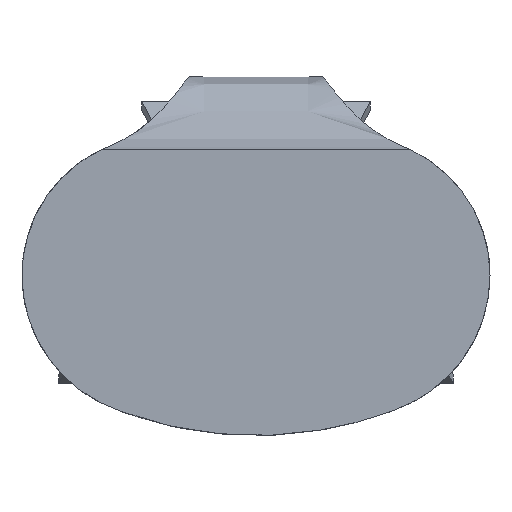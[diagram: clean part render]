
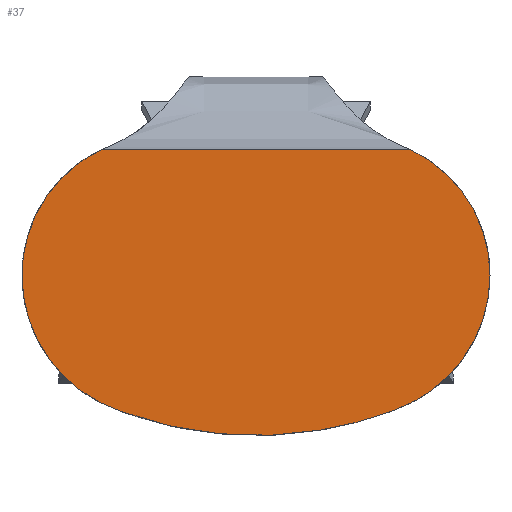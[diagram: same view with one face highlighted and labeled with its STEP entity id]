
A CAD part, top view. The second image highlights one B-rep face of the part: STEP entity #37.
In plain terms, the highlighted planar face has unit normal (0, 0, 1).
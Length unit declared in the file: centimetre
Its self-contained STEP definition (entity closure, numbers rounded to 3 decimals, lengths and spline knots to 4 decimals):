
#37=ADVANCED_FACE($,(#62),#337,.T.);
#62=FACE_OUTER_BOUND($,#87,.T.);
#87=EDGE_LOOP($,(#203,#204));
#203=ORIENTED_EDGE($,*,*,#272,.F.);
#204=ORIENTED_EDGE($,*,*,#266,.F.);
#266=EDGE_CURVE($,#311,#308,#395,.T.);
#272=EDGE_CURVE($,#308,#311,#339,.T.);
#308=VERTEX_POINT($,#1656);
#311=VERTEX_POINT($,#1659);
#337=PLANE($,#492);
#339=(
BOUNDED_CURVE()
B_SPLINE_CURVE(2,(#981,#982,#983,#984,#985,#986,#987,#988,#989,#990,#991),
.UNSPECIFIED.,.F.,.F.)
B_SPLINE_CURVE_WITH_KNOTS((3,2,2,2,2,3),(251.3464,268.9916,
288.0027,321.0229,340.034,357.6792),.UNSPECIFIED.)
CURVE()
GEOMETRIC_REPRESENTATION_ITEM()
RATIONAL_B_SPLINE_CURVE((1.,0.843,1.,0.829,1.,0.93,
1.,0.829,1.,0.843,1.))
REPRESENTATION_ITEM($)
);
#395=B_SPLINE_CURVE_WITH_KNOTS($,3,(#871,#872,#873,#874),.UNSPECIFIED.,.F.,
.F.,(4,4),(-0.7947,33.9067),.UNSPECIFIED.);
#492=AXIS2_PLACEMENT_3D($,#1621,#500,$);
#500=DIRECTION($,(0.,0.,1.));
#871=CARTESIAN_POINT($,(9.5043,31.3739,60.3199));
#872=CARTESIAN_POINT($,(21.0695,31.3748,60.3199));
#873=CARTESIAN_POINT($,(32.6347,31.3757,60.3199));
#874=CARTESIAN_POINT($,(44.1999,31.3767,60.3199));
#981=CARTESIAN_POINT($,(44.1999,31.3767,60.3199));
#982=CARTESIAN_POINT($,(53.1788,27.1196,60.3199));
#983=CARTESIAN_POINT($,(53.0977,17.1814,60.3199));
#984=CARTESIAN_POINT($,(53.0093,6.3812,60.3199));
#985=CARTESIAN_POINT($,(42.9704,2.4006,60.3199));
#986=CARTESIAN_POINT($,(26.8521,-3.9906,60.3199));
#987=CARTESIAN_POINT($,(10.7338,2.398,60.3199));
#988=CARTESIAN_POINT($,(0.6949,6.377,60.3199));
#989=CARTESIAN_POINT($,(0.6065,17.1772,60.3199));
#990=CARTESIAN_POINT($,(0.5253,27.1155,60.3199));
#991=CARTESIAN_POINT($,(9.5043,31.3739,60.3199));
#1621=CARTESIAN_POINT($,(0.5188,31.3739,60.3199));
#1656=CARTESIAN_POINT($,(44.1999,31.3767,60.3199));
#1659=CARTESIAN_POINT($,(9.5043,31.3739,60.3199));
